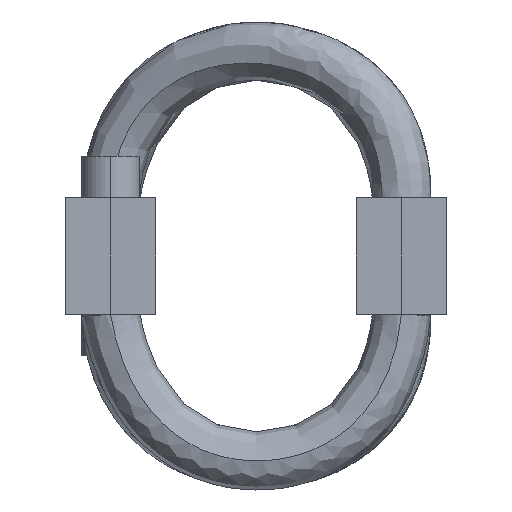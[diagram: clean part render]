
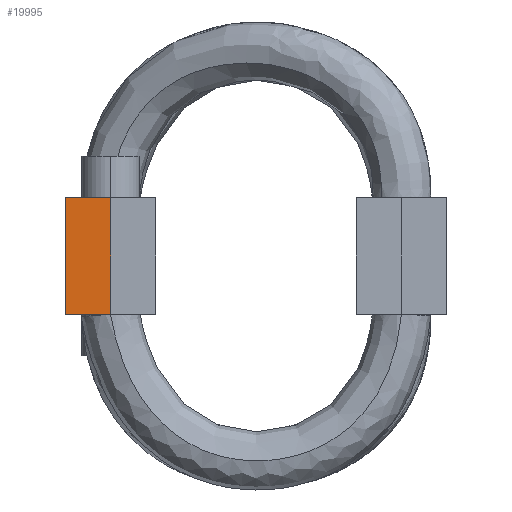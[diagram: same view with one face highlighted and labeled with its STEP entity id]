
A CAD part, left-side view. The second image highlights one B-rep face of the part: STEP entity #19995.
In plain terms, the highlighted planar face has unit normal (-1, 0, 0).
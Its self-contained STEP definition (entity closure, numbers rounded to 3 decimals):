
#330 = CARTESIAN_POINT ( 'NONE',  ( -88.9, 31.7, 12.7 ) ) ;
#976 = PLANE ( 'NONE',  #20007 ) ;
#1131 = EDGE_LOOP ( 'NONE', ( #8974, #5259, #11604, #7738 ) ) ;
#1784 = EDGE_CURVE ( 'NONE', #13915, #14021, #19087, .T. ) ;
#3130 = DIRECTION ( 'NONE',  ( 0., 0., 1. ) ) ;
#3517 = CARTESIAN_POINT ( 'NONE',  ( -88.9, 41.5, -12.7 ) ) ;
#4257 = DIRECTION ( 'NONE',  ( 0., 0., -1. ) ) ;
#5259 = ORIENTED_EDGE ( 'NONE', *, *, #10267, .F. ) ;
#7278 = CARTESIAN_POINT ( 'NONE',  ( -88.9, 41.5, -12.7 ) ) ;
#7738 = ORIENTED_EDGE ( 'NONE', *, *, #1784, .F. ) ;
#7829 = VECTOR ( 'NONE', #17385, 1000. ) ;
#8672 = LINE ( 'NONE', #3517, #18769 ) ;
#8974 = ORIENTED_EDGE ( 'NONE', *, *, #20772, .F. ) ;
#9553 = CARTESIAN_POINT ( 'NONE',  ( -88.9, 36.6, 0. ) ) ;
#10267 = EDGE_CURVE ( 'NONE', #10896, #19664, #8672, .T. ) ;
#10625 = FACE_OUTER_BOUND ( 'NONE', #1131, .T. ) ;
#10875 = CARTESIAN_POINT ( 'NONE',  ( -88.9, 41.5, -12.7 ) ) ;
#10896 = VERTEX_POINT ( 'NONE', #7278 ) ;
#11604 = ORIENTED_EDGE ( 'NONE', *, *, #12302, .F. ) ;
#12302 = EDGE_CURVE ( 'NONE', #14021, #10896, #13591, .T. ) ;
#13591 = LINE ( 'NONE', #10875, #7829 ) ;
#13915 = VERTEX_POINT ( 'NONE', #330 ) ;
#14021 = VERTEX_POINT ( 'NONE', #19817 ) ;
#14980 = VECTOR ( 'NONE', #20214, 1000. ) ;
#16033 = DIRECTION ( 'NONE',  ( -1., 0., 0. ) ) ;
#17385 = DIRECTION ( 'NONE',  ( 0., 1., 0. ) ) ;
#18689 = DIRECTION ( 'NONE',  ( 0., 0., 1. ) ) ;
#18769 = VECTOR ( 'NONE', #18689, 1000. ) ;
#19087 = LINE ( 'NONE', #19340, #19767 ) ;
#19340 = CARTESIAN_POINT ( 'NONE',  ( -88.9, 31.7, -12.7 ) ) ;
#19664 = VERTEX_POINT ( 'NONE', #27910 ) ;
#19767 = VECTOR ( 'NONE', #4257, 1000. ) ;
#19817 = CARTESIAN_POINT ( 'NONE',  ( -88.9, 31.7, -12.7 ) ) ;
#19995 = ADVANCED_FACE ( 'NONE', ( #10625 ), #976, .T. ) ;
#20007 = AXIS2_PLACEMENT_3D ( 'NONE', #9553, #16033, #3130 ) ;
#20214 = DIRECTION ( 'NONE',  ( 0., -1., 0. ) ) ;
#20686 = LINE ( 'NONE', #26602, #14980 ) ;
#20772 = EDGE_CURVE ( 'NONE', #19664, #13915, #20686, .T. ) ;
#26602 = CARTESIAN_POINT ( 'NONE',  ( -88.9, 41.5, 12.7 ) ) ;
#27910 = CARTESIAN_POINT ( 'NONE',  ( -88.9, 41.5, 12.7 ) ) ;
